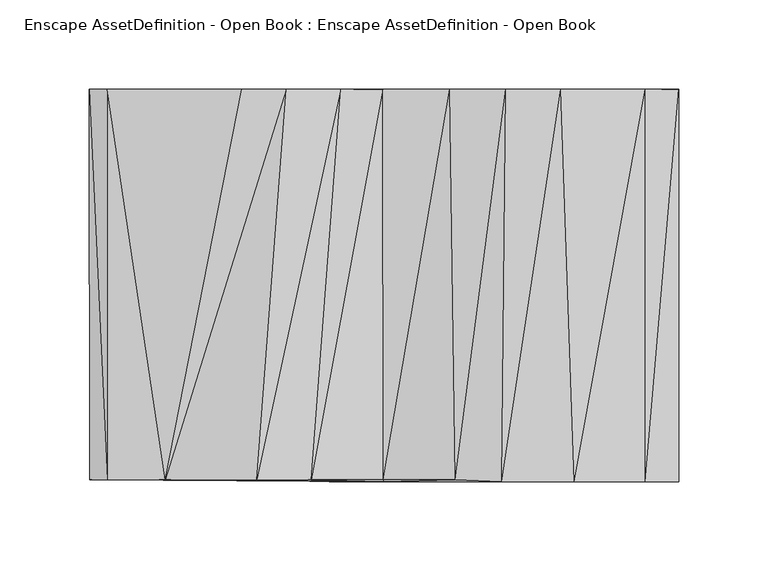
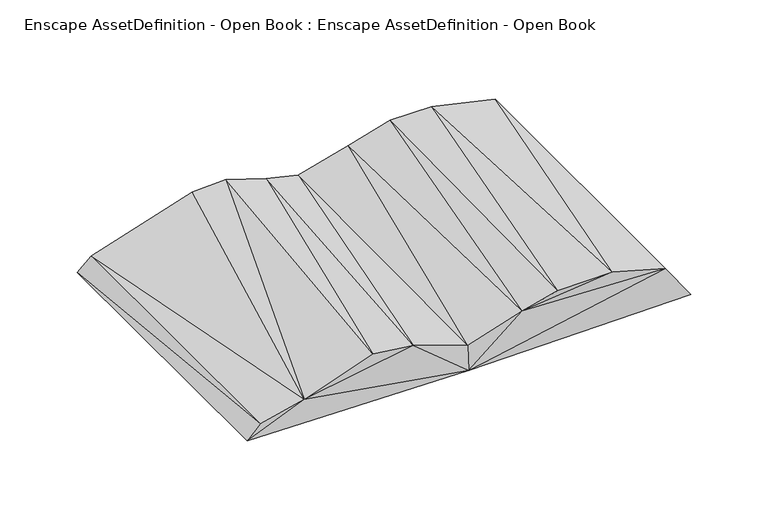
"""IFC4 building model written with IfcOpenShell, lengths in millimetres: geographic element geometry, Enscape AssetDefinition - Open Book : Enscape AssetDefinition - Open Book."""

from ifc_helpers import new_model, si_unit, origin, place, context, project, spatial, faceted_brep, source, transform, mapped, element, save


def enscape_assetdefinition_open_book_enscape_assetdefinition_ceea0857(model_context):
    return source(origin(), model_context, "Body", "Brep", [
        faceted_brep([(165.6920965, 109.8322976, 1.9604295), (-0.2675711, -110.6809757, 0.0), (-0.2675711, 109.8322976, 0.0), (165.6920965, -110.6809757, 1.9604295), (-165.2850756, -109.5858273, 1.1916336), (146.7465537, -110.6809757, 29.1562079), (40.195967, -109.5858273, 32.109286), (-0.2547578, -109.5858273, 18.7917841), (-40.9413956, -109.5858273, 33.212735), (-122.6711854, -109.5858273, 19.258336), (146.7465537, 109.8322976, 29.1562079), (106.8973007, -110.6809757, 40.0), (99.2794359, 109.8322976, 40.0), (36.9074785, 109.5858273, 30.9967964), (66.0915711, -110.6809757, 40.0), (68.4590139, 109.8322976, 40.0), (-0.673827, 109.5858273, 20.8501968), (-24.2796302, 109.5858273, 26.6176711), (-165.6039165, 109.5858273, 1.4757867), (-54.9101141, 109.5858273, 36.5607674), (-79.9057796, 109.5858273, 35.0548293), (-71.2975302, -109.5858273, 37.2376115), (-155.4226475, 109.5858273, 11.1580919), (-155.4226475, -109.5858273, 11.1580919)], [[[0, 1, 2]], [[1, 0, 3]], [[4, 2, 1]], [[1, 5, 6]], [[5, 1, 3]], [[1, 7, 8]], [[1, 6, 7]], [[1, 9, 4]], [[9, 1, 8]], [[0, 5, 3]], [[5, 0, 10]], [[10, 11, 5]], [[11, 6, 5]], [[11, 10, 12]], [[0, 13, 10]], [[13, 12, 10]], [[12, 14, 11]], [[6, 11, 14]], [[14, 12, 15]], [[12, 13, 15]], [[15, 6, 14]], [[6, 15, 13]], [[13, 7, 6]], [[7, 13, 16]], [[13, 0, 2]], [[13, 2, 16]], [[8, 16, 17]], [[16, 8, 7]], [[2, 17, 16]], [[2, 4, 18]], [[17, 2, 19]], [[19, 2, 20]], [[18, 20, 2]], [[21, 17, 19]], [[17, 21, 8]], [[9, 19, 20]], [[19, 9, 21]], [[22, 9, 20]], [[20, 18, 22]], [[23, 18, 4]], [[18, 23, 22]], [[4, 9, 23]], [[9, 22, 23]], [[9, 8, 21]]]),
    ])


if __name__ == "__main__":
    model = new_model("IFC4")
    model_context = context("Model", 3, world=origin())
    ifc_project = project(units=[si_unit("LENGTHUNIT", "METRE", prefix="MILLI")], contexts=[model_context])
    site = spatial("IfcSite", under=ifc_project)
    building = spatial("IfcBuilding", under=site)
    placement = place(None, origin())
    enscape_assetdefinition_open_book_enscape_assetdefinition_shape = enscape_assetdefinition_open_book_enscape_assetdefinition_ceea0857(model_context)
    element("IfcGeographicElement", 1, ObjectType="Enscape AssetDefinition - Open Book : Enscape AssetDefinition - Open Book", at=placement, inside=building, context=model_context, shape_type="MappedRepresentation", body=[
        mapped(enscape_assetdefinition_open_book_enscape_assetdefinition_shape, transform((0.0, 0.0, 0.0), x_axis=(1.0, 0.0, 0.0), y_axis=(0.0, 1.0, 0.0), z_axis=(0.0, 0.0, 1.0))),
    ])
    save(model, "model.ifc")
